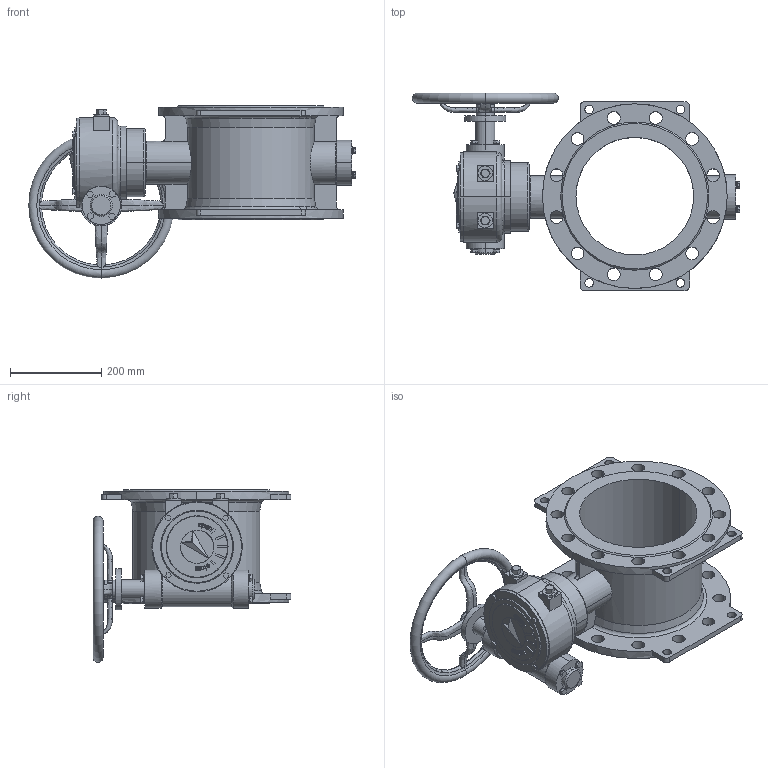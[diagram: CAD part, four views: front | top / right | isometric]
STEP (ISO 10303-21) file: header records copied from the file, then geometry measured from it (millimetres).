
FILE_DESCRIPTION (( 'STEP AP203' ), '1' );
FILE_NAME ('DN250 PN16.STEP', '2014-09-26T00:13:59', ( '微软用户' ), ( 'Sky123.Org' ), 'SwSTEP 2.0', 'SolidWorks 2012', '' );
FILE_SCHEMA (( 'CONFIG_CONTROL_DESIGN' ));
Length unit declared in the file: millimetre
Products named in the file (1): DN250 PN16
Bounding box: 717.96 x 433.71 x 378.31 mm (x, y, z)
Volume: 11907874.8 mm3; surface area: 1191150.2 mm2
Topology: 3 solids, 3 shells, 608 faces, 1546 edges, 1015 vertices
Faces by surface type: plane 295, cylinder 176, bspline 72, cone 33, torus 32
Entity records: 26764 total; most frequent: CARTESIAN_POINT 12091, ORIENTED_EDGE 3092, DIRECTION 2831, EDGE_CURVE 1546, VERTEX_POINT 1015, AXIS2_PLACEMENT_3D 999, VECTOR 833, LINE 833
